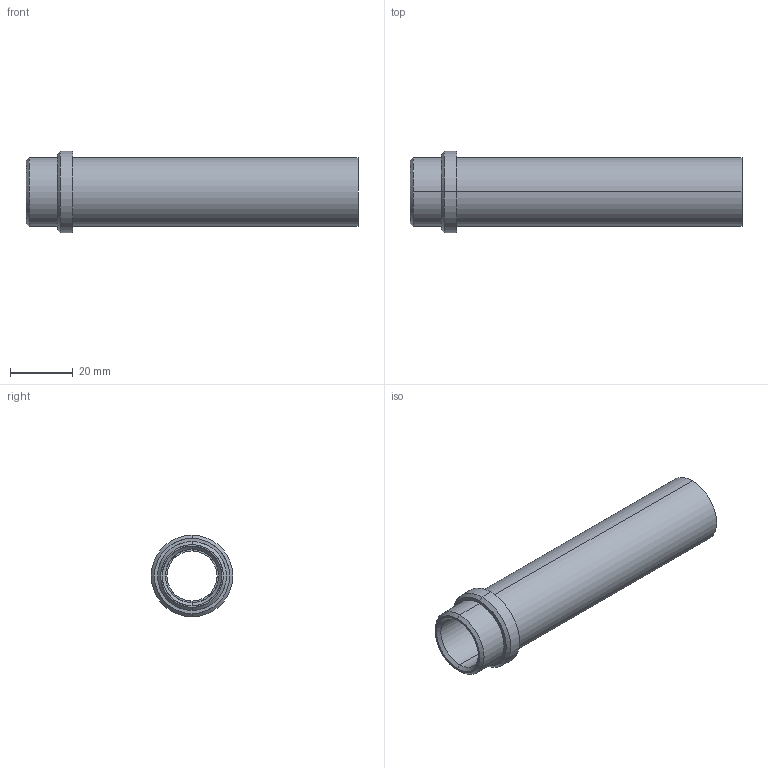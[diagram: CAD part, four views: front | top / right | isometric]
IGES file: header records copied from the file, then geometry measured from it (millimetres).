
Start section: START RECORD GO HERE.
Global section: file name: 358-16x106.igs; native system: DASSAULT SYSTEMES CATIA V5 R20 - www.3ds.com; preprocessor: CATIA Version 5 Release 20 ; author: Utente; organization: NB04-ASUS; date: 20210408.151328; units: millimetre
Bounding box: 106 x 26 x 26 mm (x, y, z)
Surface area: 13447.1 mm2 (no closed solid volume)
Topology: 0 solids, 0 shells, 23 faces, 148 edges, 148 vertices
Faces by surface type: revolution 18, plane 5
